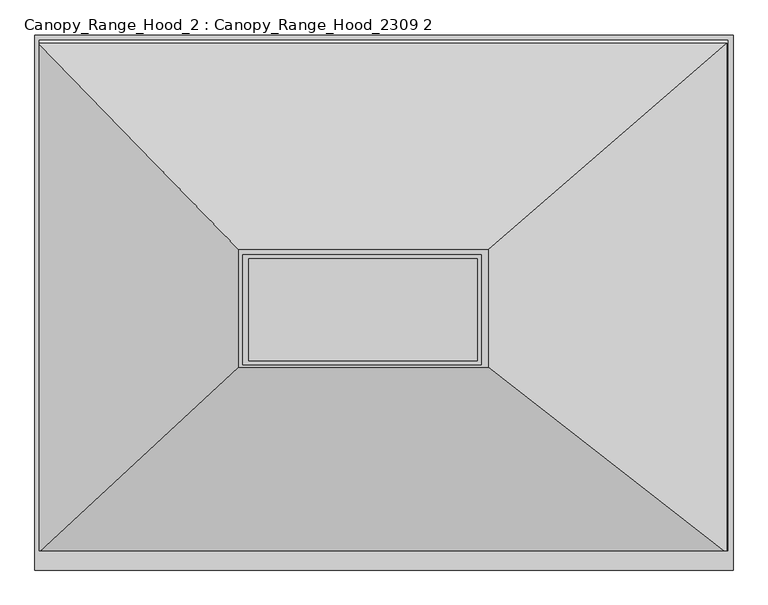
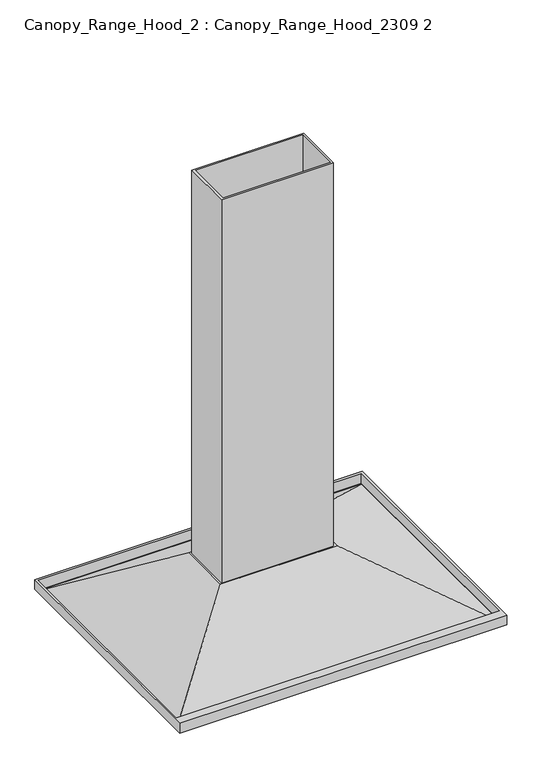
"""IFC4 building model written with IfcOpenShell, lengths in millimetres: proxy geometry, Canopy_Range_Hood_2 : Canopy_Range_Hood_2309 2."""

from ifc_helpers import new_model, si_unit, frame, origin, place, context, project, spatial, polyline, outline, extrude, faceted_brep, source, transform, mapped, element, save


def canopy_range_hood_2_canopy_range_hood_2309_2_998e5ffe(model_context):
    return source(origin(), model_context, "Body", "SolidModel", [
        extrude(outline(polyline([(-550.0, -26.918318), (9.0805597, -26.918318), (9.0805597, -285.0), (-550.0, -285.0), (-550.0, -26.918318)]), holes=[polyline([(-536.6208197, -275.2824074), (0.0, -275.2824074), (0.0, -36.2465467), (-536.6208197, -36.2465467), (-536.6208197, -275.2824074)])]), frame((0.0, 0.0, 2324.1), z_axis=(0.0, 0.0, 1.0), x_axis=(1.0, 0.0, 0.0)), (0.0, 0.0, 1.0), 2035.9),
        faceted_brep([(-560.0, -290.775, 2330.9213332), (25.0, -290.775, 2330.9213332), (25.0, -15.0, 2330.9213332), (-560.0, -15.0, 2330.9213332), (-1030.0, -726.7379768, 2000.0), (-1030.0, 470.0, 2000.0), (585.3, 470.0, 2000.0), (585.3, -726.7379768, 2000.0)], [[[0, 1, 2, 3]], [[4, 5, 6, 7]], [[4, 7, 1, 0]], [[7, 6, 2, 1]], [[6, 5, 3, 2]], [[5, 4, 0, 3]]]),
        extrude(outline(polyline([(600.0, 488.95), (600.0, -766.1752341), (-1038.0, -766.1752341), (-1038.0, 488.95), (600.0, 488.95)]), holes=[polyline([(-1028.0, 476.25), (-1028.0, -720.4879768), (587.3, -720.4879768), (587.3, 476.25), (-1028.0, 476.25)])]), frame((0.0, 0.0, 2000.0), z_axis=(0.0, 0.0, 1.0), x_axis=(1.0, 0.0, 0.0)), (0.0, 0.0, 1.0), 50.8),
    ])


if __name__ == "__main__":
    model = new_model("IFC4")
    model_context = context("Model", 3, world=origin())
    ifc_project = project(units=[si_unit("LENGTHUNIT", "METRE", prefix="MILLI")], contexts=[model_context])
    site = spatial("IfcSite", under=ifc_project)
    building = spatial("IfcBuilding", under=site)
    placement = place(None, origin())
    canopy_range_hood_2_canopy_range_hood_2309_2_shape = canopy_range_hood_2_canopy_range_hood_2309_2_998e5ffe(model_context)
    element("IfcBuildingElementProxy", 1, Name="Canopy_Range_Hood_2 : Canopy_Range_Hood_2309 2", ObjectType="Canopy_Range_Hood_2 : Canopy_Range_Hood_2309 2", at=placement, inside=building, context=model_context, shape_type="MappedRepresentation", body=[
        mapped(canopy_range_hood_2_canopy_range_hood_2309_2_shape, transform((0.0, 0.0, 0.0), x_axis=(1.0, 0.0, 0.0), y_axis=(0.0, 1.0, 0.0), z_axis=(0.0, 0.0, 1.0))),
    ])
    save(model, "model.ifc")
